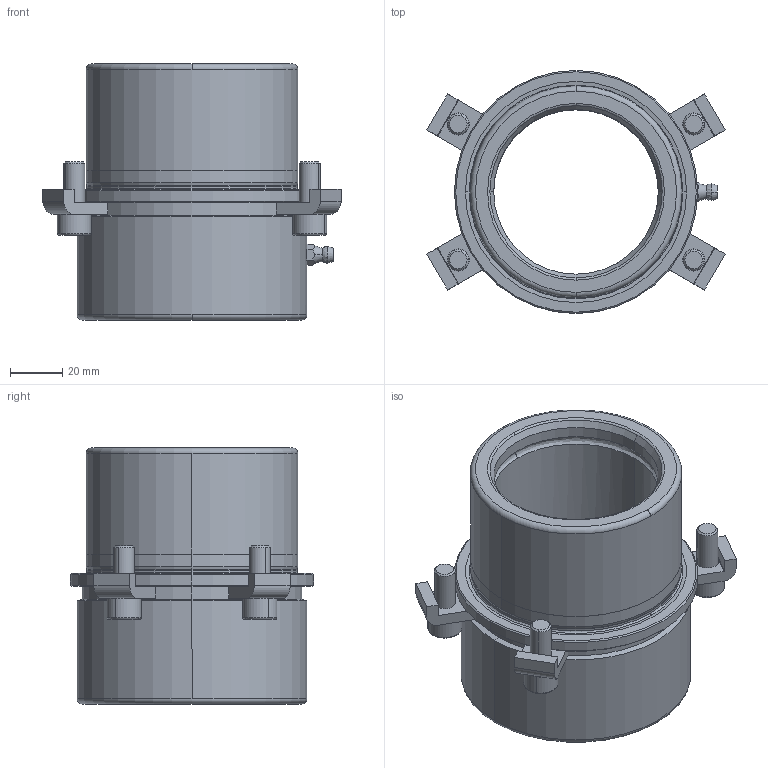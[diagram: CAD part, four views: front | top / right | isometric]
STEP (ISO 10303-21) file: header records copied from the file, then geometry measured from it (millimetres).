
FILE_DESCRIPTION((''),'2;1');
FILE_NAME('B10_063_050.stp','2008-11-06T09:15:57',(''),(''),'Mechanical Desktop 2009','Mechanical Desktop 2009',', , ');
FILE_SCHEMA(('CONFIG_CONTROL_DESIGN'));
Length unit declared in the file: millimetre
Products named in the file (2): Product; blmdl1
Assembly tree (1 placements, depth 2):
  Product
    blmdl1
Bounding box: 114.12 x 93 x 98 mm (x, y, z)
Volume: 256828.1 mm3; surface area: 62636.8 mm2
Topology: 10 solids, 10 shells, 202 faces, 505 edges, 332 vertices
Faces by surface type: plane 82, cylinder 60, cone 24, bspline 18, torus 18
Entity records: 7382 total; most frequent: CARTESIAN_POINT 2304, DIRECTION 1111, ORIENTED_EDGE 1002, EDGE_CURVE 501, AXIS2_PLACEMENT_3D 441, VERTEX_POINT 330, CIRCLE 255, VECTOR 229
